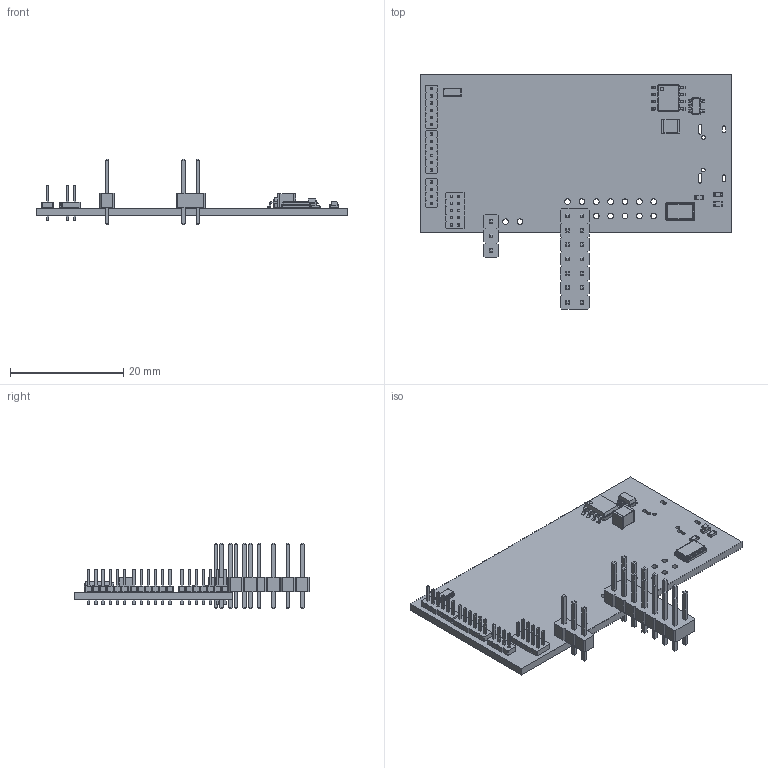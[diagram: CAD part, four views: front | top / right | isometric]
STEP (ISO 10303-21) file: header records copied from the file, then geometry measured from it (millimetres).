
FILE_DESCRIPTION(('KiCad electronic assembly'),'2;1');
FILE_NAME('stm32n6-px4.step','2026-10-22T18:47:13',('Pcbnew'),('Kicad'), 'Open CASCADE STEP processor 7.9','KiCad to STEP converter','Unknown' );
FILE_SCHEMA(('AUTOMOTIVE_DESIGN { 1 0 10303 214 1 1 1 1 }'));
Length unit declared in the file: millimetre
Products named in the file (26): stm32n6-px4 1; SOT-23-5; PinHeader_2x05_P1.27mm_Vertical; PinHeader_2x05_P127mm_Vertical; R_0603_1608Metric; Crystal_SMD_3215-2Pin_3.2x1.5mm; LED_0603_1608Metric; L_1210_3225Metric; PinHeader_1x03_P2.54mm_Vertical; PinHeader_1x03_P254mm_Vertical; PinHeader_1x06_P1.27mm_Vertical; PinHeader_1x06_P127mm_Vertical; Crystal_SMD_5032-2Pin_5.0x3.2mm; PinHeader_1x04_P1.27mm_Vertical; PinHeader_1x04_P127mm_Vertical; PinHeader_2x07_P2.54mm_Vertical; PinHeader_2x07_P254mm_Vertical; SOIC-8_3.9x4.9mm_P1.27mm; stm32n6-px4_PCB
Assembly tree (27 placements, depth 3):
  stm32n6-px4 1
    SOT-23-5
      SOT-23-5
    PinHeader_2x05_P1.27mm_Vertical
      PinHeader_2x05_P127mm_Vertical
    R_0603_1608Metric  x2
      R_0603_1608Metric
    Crystal_SMD_3215-2Pin_3.2x1.5mm
      Crystal_SMD_3215-2Pin_3.2x1.5mm
    LED_0603_1608Metric
      LED_0603_1608Metric
    L_1210_3225Metric
      L_1210_3225Metric
    PinHeader_1x03_P2.54mm_Vertical
      PinHeader_1x03_P254mm_Vertical
    PinHeader_1x06_P1.27mm_Vertical  x2
      PinHeader_1x06_P127mm_Vertical
    Crystal_SMD_5032-2Pin_5.0x3.2mm
      Crystal_SMD_5032-2Pin_5.0x3.2mm
    PinHeader_1x04_P1.27mm_Vertical
      PinHeader_1x04_P127mm_Vertical
    PinHeader_2x07_P2.54mm_Vertical
      PinHeader_2x07_P254mm_Vertical
    SOIC-8_3.9x4.9mm_P1.27mm
      SOIC-8_3.9x4.9mm_P1.27mm
    stm32n6-px4_PCB
Bounding box: 55 x 41.51 x 11.54 mm (x, y, z)
Volume: 2574.5 mm3; surface area: 4854.7 mm2
Topology: 15 solids, 15 shells, 1750 faces, 4287 edges, 2656 vertices
Faces by surface type: plane 1385, cylinder 261, torus 72, bspline 32
Full cylindrical faces by diameter (mm): 0.65 x28, 1 x17
Entity records: 58328 total; most frequent: CARTESIAN_POINT 8309, ORIENTED_EDGE 7729, DIRECTION 7533, EDGE_CURVE 3865, LINE 3213, VECTOR 3213, VERTEX_POINT 2392, AXIS2_PLACEMENT_3D 2160
